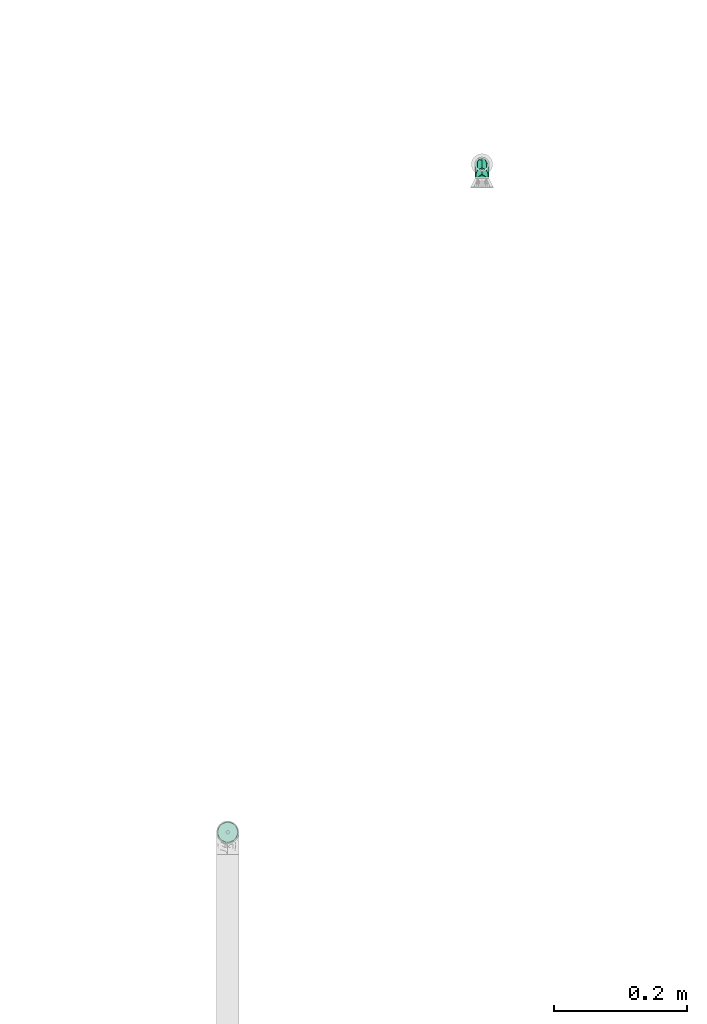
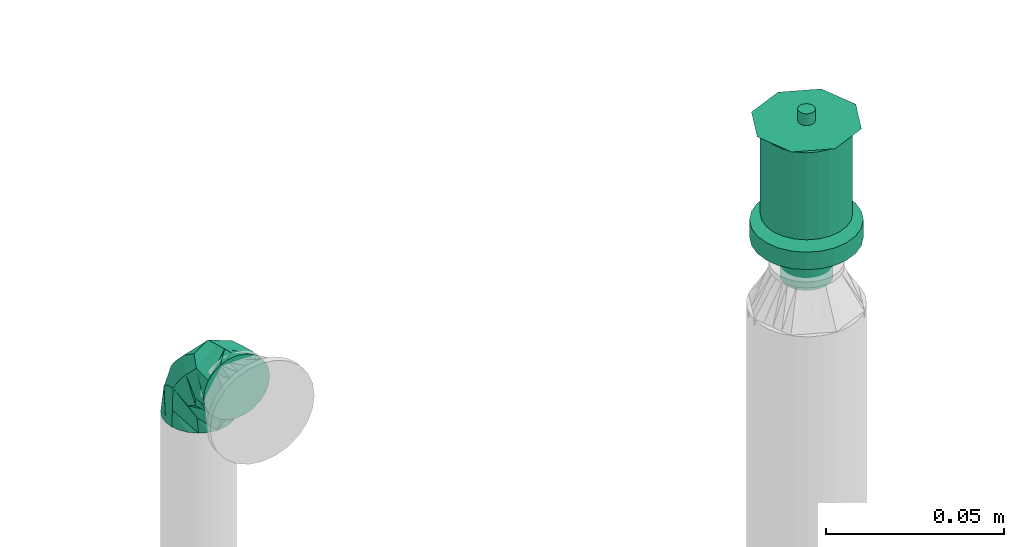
# One storey, part 48 of 94: 1 flow fitting, 1 flow terminal.
"""IFC2X3 building model written with IfcOpenShell, lengths in millimetres."""

from ifc_helpers import new_model, entity, si_unit, converted_unit, derived_unit, direction, frame, origin_with_axes, place, context, subcontext, project, spatial, open_shell, surface_model, source, transform, mapped, type_object, element, save


model = new_model("IFC2X3")

# Units and contexts
model_context = context("Model", 3, precision=0.01, world=frame((0.0, 4.29681676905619e-09, 0.0)), true_north=direction((4.01073788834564e-13, 1.0)))
plan_context = context("Plan", 3, precision=0.01, world=frame((0.0, 4.29681676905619e-09, 0.0)), true_north=direction((4.01073788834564e-13, 1.0)))
body_context = subcontext(model_context, "Body", "Model", "MODEL_VIEW")
ifc_project = project(units=[converted_unit("PLANEANGLEUNIT", "DEGREE", entity("IfcPositiveLengthMeasure", 0.0174532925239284), si_unit("PLANEANGLEUNIT", "RADIAN"), dimensions=[0, 0, 0, 0, 0, 0, 0]), si_unit("AREAUNIT", "SQUARE_METRE"), si_unit("LENGTHUNIT", "METRE", prefix="MILLI"), si_unit("MASSUNIT", "GRAM", prefix="KILO"), si_unit("POWERUNIT", "WATT"), si_unit("PRESSUREUNIT", "PASCAL", prefix="KILO"), si_unit("FORCEUNIT", "NEWTON", prefix="KILO"), si_unit("ELECTRICVOLTAGEUNIT", "VOLT"), si_unit("ELECTRICCURRENTUNIT", "AMPERE"), si_unit("THERMODYNAMICTEMPERATUREUNIT", "DEGREE_CELSIUS"), si_unit("TIMEUNIT", "SECOND"), si_unit("VOLUMEUNIT", "CUBIC_METRE"), derived_unit("LINEARVELOCITYUNIT", [(si_unit("LENGTHUNIT", "METRE"), 1), (si_unit("TIMEUNIT", "SECOND"), -1)]), derived_unit("VOLUMETRICFLOWRATEUNIT", [(si_unit("VOLUMEUNIT", "CUBIC_METRE"), 1), (si_unit("TIMEUNIT", "SECOND"), -1)]), derived_unit("THERMALTRANSMITTANCEUNIT", [(si_unit("POWERUNIT", "WATT"), 1), (si_unit("THERMODYNAMICTEMPERATUREUNIT", "KELVIN"), -1), (si_unit("AREAUNIT", "SQUARE_METRE"), -1)]), derived_unit("SOUNDPRESSUREUNIT", [(si_unit("PRESSUREUNIT", "PASCAL"), 1)])], contexts=[model_context, plan_context])

# Site, building, storey
site_placement = place(None, frame((0.0, -4.29681676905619e-09, 0.0), z_axis=(0.0, 0.0, 1.0), x_axis=(1.0, 0.0, 0.0)))
site = spatial("IfcSite", under=ifc_project, at=site_placement, CompositionType="ELEMENT")
building_placement = place(site_placement, frame((0.0, 4.29681676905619e-09, 0.0), z_axis=(0.0, 0.0, 1.0), x_axis=(1.0, 0.0, 0.0)))
building = spatial("IfcBuilding", under=site, at=building_placement, Name="mc-building", CompositionType="ELEMENT")
storey_placement = place(building_placement, frame((0.0, 0.0, 210900.0), z_axis=(0.0, 0.0, 1.0), x_axis=(1.0, 0.0, 0.0)))
storey = spatial("IfcBuildingStorey", under=building, at=storey_placement, Name="Nivå F", CompositionType="ELEMENT", Elevation=210900.0)

# Flow fitting
pipe_fitting_type = type_object("IfcPipeFittingType", Name="magi_pipe_fe_elbow_short_001", PredefinedType="BEND")
shared_shape_1 = source(origin_with_axes(), body_context, "Body", "SurfaceModel", [
    surface_model("IfcShellBasedSurfaceModel", [(-21.4, 2.76936, -10.33541), (-21.4, 0.0, -10.7), (-21.4, 7.56604, -7.56604), (-21.4, 5.35, -9.26647), (-21.4, 10.33541, -2.76936), (-21.4, 9.26647, -5.35), (-21.4, -7.56604, 7.56604), (-21.4, -5.35, -9.26647), (-21.4, -5.35, 9.26647), (-21.4, -7.56604, -7.56604), (-21.4, -9.26647, -5.35), (-21.4, -2.76936, -10.33541), (-21.4, -10.33541, -2.76936), (-21.4, -10.7, 0.0), (-21.4, 10.7, 0.0), (-21.4, 10.33541, 2.76936), (-21.4, 9.26647, 5.35), (-21.4, 7.56604, 7.56604), (-21.4, 5.35, 9.26647), (-21.4, 2.76936, 10.33541), (-21.4, -10.33541, 2.76936), (-21.4, -9.26647, 5.35), (-21.4, -2.76936, 10.33541), (-21.4, 0.0, 10.7), (-7.56604, 21.4, -7.56604), (0.0, 21.4, -10.7), (-2.76936, 21.4, -10.33541), (-5.35, 21.4, -9.26647), (-9.26647, 21.4, -5.35), (-10.33541, 21.4, -2.76936), (10.7, 21.4, 0.0), (5.35, 21.4, -9.26647), (9.26647, 21.4, -5.35), (7.56604, 21.4, -7.56604), (2.76936, 21.4, -10.33541), (10.33541, 21.4, -2.76936), (-10.33541, 21.4, 2.76936), (5.35, 21.4, 9.26647), (-7.56604, 21.4, 7.56604), (-9.26647, 21.4, 5.35), (-5.35, 21.4, 9.26647), (-2.76936, 21.4, 10.33541), (9.26647, 21.4, 5.35), (10.33541, 21.4, 2.76936), (7.56604, 21.4, 7.56604), (0.0, 21.4, 10.7), (2.76936, 21.4, 10.33541), (-10.7, 21.4, 0.0), (-17.99408, -9.78739, 0.0), (-9.96908, -7.6371, 0.0), (-9.09404, -6.9243, 4.95785), (-14.48689, -7.04149, 7.24979), (5.63065, 8.24892, 6.28438), (2.06258, 3.09852, 6.68299), (3.46206, 2.41265, 0.0), (0.98571, 10.3211, 10.08431), (-14.58817, -8.87478, 0.0), (5.00363, 14.04705, 8.8538), (-11.43216, -3.30045, 9.33143), (7.6371, 9.96908, 0.0), (8.87478, 14.58817, 0.0), (-7.84024, 13.84213, 8.94205), (-3.62699, 16.02976, 10.31804), (-15.33449, 3.33478, 10.44017), (-7.99137, -0.64527, 9.75219), (-12.26698, 17.61698, 0.0), (-13.83396, 13.83396, 0.0), (-5.22925, -4.43288, 5.66596), (6.39942, 5.35, 0.0), (-15.15468, 10.16047, 6.44408), (-10.16467, 10.01422, 9.23503), (9.78739, 17.99408, 0.0), (-7.22951, 3.98894, 10.64848), (-2.16379, -1.00373, 6.95774), (0.52471, -0.52471, 0.0), (-2.94157, 6.97816, 10.50675), (-17.61698, 12.26698, 0.0), (-2.41265, -3.46206, 0.0), (-5.35, -6.39942, 0.0), (-8.83498, -0.07405, -10.11828), (-2.16379, -1.00373, -6.95774), (-5.8406, -4.06158, -6.57779), (-7.84024, 13.84213, -8.94205), (-15.33449, 3.33478, -10.44017), (-11.43216, -3.30045, -9.33143), (-15.15468, 10.16047, -6.44408), (-7.22951, 3.98894, -10.64848), (-10.16467, 10.01422, -9.23503), (2.06258, 3.09852, -6.68299), (-2.94157, 6.97816, -10.50675), (-14.48689, -7.04149, -7.24979), (5.00363, 14.04705, -8.8538), (-3.62699, 16.02976, -10.31804), (0.98571, 10.3211, -10.08431), (5.63065, 8.24892, -6.28438), (-9.09404, -6.9243, -4.95785)], [open_shell([[[0, 1, 2]], [[3, 0, 2]], [[4, 5, 2]], [[6, 1, 7]], [[1, 8, 2]], [[9, 10, 7]], [[1, 11, 7]], [[12, 13, 10]], [[7, 10, 13]], [[13, 6, 7]], [[4, 2, 14]], [[8, 15, 2]], [[16, 15, 17]], [[8, 18, 15]], [[17, 15, 18]], [[18, 8, 19]], [[20, 21, 13]], [[13, 21, 6]], [[22, 23, 8]], [[6, 8, 1]], [[8, 23, 19]], [[15, 14, 2]], [[24, 25, 26]], [[24, 26, 27]], [[24, 28, 29]], [[24, 29, 25]], [[25, 29, 30]], [[31, 32, 33]], [[31, 34, 25]], [[32, 30, 35]], [[30, 32, 31]], [[25, 30, 31]], [[29, 36, 30]], [[30, 36, 37]], [[38, 36, 39]], [[36, 40, 37]], [[40, 36, 38]], [[41, 37, 40]], [[30, 42, 43]], [[44, 42, 30]], [[37, 45, 46]], [[30, 37, 44]], [[41, 45, 37]], [[29, 47, 36]], [[21, 20, 48]], [[49, 50, 51]], [[52, 53, 54]], [[52, 55, 53]], [[51, 6, 56]], [[6, 21, 56]], [[41, 57, 45]], [[23, 51, 58]], [[51, 22, 8]], [[57, 59, 60]], [[61, 55, 62]], [[63, 58, 64]], [[65, 66, 61]], [[51, 23, 22]], [[23, 58, 19]], [[67, 58, 50]], [[54, 68, 52]], [[63, 17, 18]], [[20, 13, 48]], [[14, 15, 69]], [[16, 17, 63]], [[62, 40, 38]], [[19, 58, 63]], [[16, 69, 15]], [[63, 18, 19]], [[59, 52, 68]], [[60, 44, 37]], [[57, 46, 45]], [[69, 70, 66]], [[52, 59, 57]], [[39, 62, 38]], [[60, 42, 44]], [[37, 57, 60]], [[37, 46, 57]], [[6, 51, 8]], [[43, 71, 30]], [[51, 56, 49]], [[70, 69, 72]], [[73, 74, 53]], [[75, 72, 73]], [[16, 63, 69]], [[47, 65, 36]], [[42, 71, 43]], [[55, 57, 62]], [[52, 57, 55]], [[41, 40, 62]], [[60, 71, 42]], [[36, 61, 39]], [[48, 56, 21]], [[61, 62, 39]], [[62, 57, 41]], [[69, 63, 72]], [[53, 75, 73]], [[69, 66, 76]], [[67, 64, 58]], [[75, 53, 55]], [[67, 77, 73]], [[55, 61, 75]], [[70, 75, 61]], [[50, 49, 78]], [[67, 50, 78]], [[51, 50, 58]], [[77, 74, 73]], [[73, 72, 64]], [[67, 78, 77]], [[73, 64, 67]], [[63, 64, 72]], [[36, 65, 61]], [[75, 70, 72]], [[14, 69, 76]], [[66, 70, 61]], [[53, 74, 54]], [[79, 80, 81]], [[65, 29, 82]], [[3, 2, 83]], [[0, 84, 1]], [[4, 14, 85]], [[10, 48, 12]], [[83, 5, 85]], [[85, 5, 4]], [[86, 85, 87]], [[83, 86, 79]], [[83, 84, 0]], [[48, 13, 12]], [[80, 77, 81]], [[88, 80, 89]], [[10, 9, 56]], [[7, 11, 90]], [[91, 31, 60]], [[9, 7, 90]], [[90, 11, 1]], [[84, 90, 1]], [[9, 90, 56]], [[28, 92, 82]], [[5, 83, 2]], [[85, 14, 76]], [[80, 88, 74]], [[82, 66, 65]], [[93, 82, 92]], [[28, 82, 29]], [[28, 24, 92]], [[24, 27, 92]], [[71, 60, 32]], [[91, 92, 26]], [[56, 48, 10]], [[35, 30, 71]], [[27, 26, 92]], [[94, 88, 93]], [[25, 91, 26]], [[31, 91, 34]], [[83, 0, 3]], [[94, 93, 91]], [[33, 60, 31]], [[89, 93, 88]], [[34, 91, 25]], [[71, 32, 35]], [[92, 91, 93]], [[59, 91, 60]], [[86, 83, 85]], [[95, 78, 49]], [[33, 32, 60]], [[66, 87, 85]], [[94, 59, 68]], [[89, 80, 86]], [[49, 56, 90]], [[94, 54, 88]], [[59, 94, 91]], [[95, 90, 84]], [[87, 89, 86]], [[82, 93, 89]], [[81, 78, 95]], [[90, 95, 49]], [[81, 95, 84]], [[79, 81, 84]], [[82, 87, 66]], [[83, 79, 84]], [[80, 79, 86]], [[77, 80, 74]], [[77, 78, 81]], [[47, 29, 65]], [[76, 66, 85]], [[89, 87, 82]], [[54, 94, 68]], [[54, 74, 88]]])]),
])
flow_fitting_placement = place(storey_placement, frame((722000.0, 442200.7, 3600.0), z_axis=(1.0, 0.0, 0.0), x_axis=(0.0, 0.0, 1.0)))
element("IfcFlowFitting", 1, at=flow_fitting_placement, inside=storey, type_object=pipe_fitting_type, Name="magi_pipe_fe_elbow_short_001", context=body_context, shape_type="MappedRepresentation", body=[
    mapped(shared_shape_1, transform((0.0, 0.0, 0.0), scale=1.0)),
])

# Flow terminal
fire_suppression_terminal_type = type_object("IfcFireSuppressionTerminalType", Name="68DGR-STD-STÅENDE", PredefinedType="NOTDEFINED")
shared_shape_2 = source(origin_with_axes(), body_context, "Body", "SurfaceModel", [
    surface_model("IfcShellBasedSurfaceModel", [(3.36465, -12.55704, 51.0), (6.5, -11.25833, 51.0), (9.19239, -9.19239, 51.0), (12.55704, -3.36465, 51.0), (-11.25833, -6.5, 51.0), (11.25833, -6.5, 51.0), (-13.0, 0.0, 51.0), (0.0, -13.0, 51.0), (-6.5, -11.25833, 51.0), (-3.36465, -12.55704, 51.0), (-9.19239, -9.19239, 51.0), (-12.55704, -3.36465, 51.0), (13.0, 0.0, 51.0), (12.55704, 3.36465, 51.0), (11.25833, 6.5, 51.0), (9.19239, 9.19239, 51.0), (6.5, 11.25833, 51.0), (3.36465, 12.55704, 51.0), (0.0, 13.0, 51.0), (-3.36465, 12.55704, 51.0), (-12.55704, 3.36465, 51.0), (-9.19239, 9.19239, 51.0), (-11.25833, 6.5, 51.0), (-6.5, 11.25833, 51.0), (0.0, 13.0, 21.14766), (3.36465, 12.55704, 21.14766), (6.5, 11.25833, 21.14766), (-3.36465, 12.55704, 21.14766), (9.19239, 9.19239, 21.14766), (11.25833, 6.5, 21.14766), (12.55704, 3.36465, 21.14766), (-12.55704, 3.36465, 21.14766), (-11.25833, -6.5, 21.14766), (-9.19239, 9.19239, 21.14766), (-6.5, 11.25833, 21.14766), (-11.25833, 6.5, 21.14766), (-13.0, 0.0, 21.14766), (12.55704, -3.36465, 21.14766), (9.19239, -9.19239, 21.14766), (11.25833, -6.5, 21.14766), (6.5, -11.25833, 21.14766), (3.36465, -12.55704, 21.14766), (-6.5, -11.25833, 21.14766), (-9.19239, -9.19239, 21.14766), (-12.55704, -3.36465, 21.14766), (0.0, -13.0, 21.14766), (-3.36465, -12.55704, 21.14766), (13.0, 0.0, 21.14766), (7.24444, -1.94114, 0.1), (1.94114, -7.24444, 0.1), (3.75, -6.49519, 0.1), (5.3033, -5.3033, 0.1), (-5.3033, -5.3033, 0.1), (6.49519, -3.75, 0.1), (5.3033, 5.3033, 0.1), (0.0, -7.5, 0.1), (-3.75, -6.49519, 0.1), (-1.94114, -7.24444, 0.1), (-7.24444, -1.94114, 0.1), (-6.49519, -3.75, 0.1), (-7.24444, 1.94114, 0.1), (7.5, 0.0, 0.1), (6.49519, 3.75, 0.1), (-6.49519, 3.75, 0.1), (1.94114, 7.24444, 0.1), (0.0, 7.5, 0.1), (3.75, 6.49519, 0.1), (-7.5, 0.0, 0.1), (-5.3033, 5.3033, 0.1), (-1.94114, 7.24444, 0.1), (-3.75, 6.49519, 0.1), (7.24444, 1.94114, 0.1), (1.94114, 7.24444, -0.1), (-6.49519, 3.75, -0.1), (0.0, 7.5, -0.1), (5.3033, 5.3033, -0.1), (3.75, 6.49519, -0.1), (6.49519, 3.75, -0.1), (7.24444, 1.94114, -0.1), (-1.94114, 7.24444, -0.1), (-5.3033, 5.3033, -0.1), (-3.75, 6.49519, -0.1), (-7.24444, 1.94114, -0.1), (-7.24444, -1.94114, -0.1), (-7.5, 0.0, -0.1), (7.5, 0.0, -0.1), (7.24444, -1.94114, -0.1), (-5.3033, -5.3033, -0.1), (1.94114, -7.24444, -0.1), (6.49519, -3.75, -0.1), (5.3033, -5.3033, -0.1), (3.75, -6.49519, -0.1), (-6.49519, -3.75, -0.1), (-3.75, -6.49519, -0.1), (0.0, -7.5, -0.1), (-1.94114, -7.24444, -0.1), (0.0, -2.5, 51.0), (-2.5, 0.0, 51.0), (0.0, 2.5, 51.0), (2.5, 0.0, 51.0), (0.0, -16.0, 53.0), (11.31371, -11.31371, 53.0), (-11.31371, -11.31371, 53.0), (-16.0, 0.0, 53.0), (16.0, 0.0, 53.0), (11.31371, 11.31371, 53.0), (0.0, 16.0, 53.0), (-11.31371, 11.31371, 53.0), (1.25, -2.16506, 57.0), (0.0, -2.5, 57.0), (0.64705, -2.41481, 57.0), (2.41481, -0.64705, 57.0), (1.76777, -1.76777, 57.0), (-2.41481, -0.64705, 57.0), (-2.5, 0.0, 57.0), (2.16506, -1.25, 57.0), (-1.25, -2.16506, 57.0), (-0.64705, -2.41481, 57.0), (-1.76777, -1.76777, 57.0), (-2.16506, -1.25, 57.0), (2.5, 0.0, 57.0), (2.41481, 0.64705, 57.0), (2.16506, 1.25, 57.0), (1.76777, 1.76777, 57.0), (0.64705, 2.41481, 57.0), (1.25, 2.16506, 57.0), (-1.76777, 1.76777, 57.0), (0.0, 2.5, 57.0), (-2.16506, 1.25, 57.0), (-2.41481, 0.64705, 57.0), (-0.64705, 2.41481, 57.0), (-1.25, 2.16506, 57.0), (1.25, 2.16506, 51.0), (1.76777, 1.76777, 51.0), (1.15, 1.99186, 51.0), (0.59528, 2.22163, 51.0), (0.64705, 2.41481, 51.0), (0.0, 2.3, 51.0), (1.62635, 1.62635, 51.0), (2.41481, 0.64705, 51.0), (2.3, 0.0, 51.0), (2.22163, 0.59528, 51.0), (2.16506, 1.25, 51.0), (1.99186, 1.15, 51.0), (-0.59528, 2.22163, 51.0), (-0.64705, 2.41481, 51.0), (-1.15, 1.99186, 51.0), (-1.76777, 1.76777, 51.0), (-1.25, 2.16506, 51.0), (-1.62635, 1.62635, 51.0), (-1.99186, 1.15, 51.0), (-2.16506, 1.25, 51.0), (-2.22163, 0.59528, 51.0), (-2.41481, 0.64705, 51.0), (-2.3, 0.0, 51.0), (2.41481, -0.64705, 51.0), (2.22163, -0.59528, 51.0), (1.99186, -1.15, 51.0), (2.16506, -1.25, 51.0), (1.62635, -1.62635, 51.0), (1.76777, -1.76777, 51.0), (1.25, -2.16506, 51.0), (1.15, -1.99186, 51.0), (0.59528, -2.22163, 51.0), (0.64705, -2.41481, 51.0), (0.0, -2.3, 51.0), (-2.16506, -1.25, 51.0), (-1.99186, -1.15, 51.0), (-1.76777, -1.76777, 51.0), (-1.62635, -1.62635, 51.0), (-2.41481, -0.64705, 51.0), (-2.22163, -0.59528, 51.0), (-0.59528, -2.22163, 51.0), (-0.64705, -2.41481, 51.0), (-1.15, -1.99186, 51.0), (-1.25, -2.16506, 51.0), (1.62635, -1.62635, 56.8), (1.15, -1.99186, 56.8), (0.59528, -2.22163, 56.8), (0.0, -2.3, 56.8), (2.22163, 0.59528, 56.8), (1.99186, -1.15, 56.8), (2.22163, -0.59528, 56.8), (-0.59528, -2.22163, 56.8), (-1.15, -1.99186, 56.8), (-1.62635, -1.62635, 56.8), (-1.99186, -1.15, 56.8), (-2.22163, -0.59528, 56.8), (-1.99186, 1.15, 56.8), (2.3, 0.0, 56.8), (1.62635, 1.62635, 56.8), (1.99186, 1.15, 56.8), (1.15, 1.99186, 56.8), (0.0, 2.3, 56.8), (0.59528, 2.22163, 56.8), (-2.22163, 0.59528, 56.8), (-2.3, 0.0, 56.8), (-1.15, 1.99186, 56.8), (-0.59528, 2.22163, 56.8), (-1.62635, 1.62635, 56.8), (4.1411, -15.45481, 19.0), (8.0, -13.85641, 19.0), (11.31371, -11.31371, 19.0), (-8.0, -13.85641, 19.0), (15.45481, -4.1411, 19.0), (16.0, 0.0, 19.0), (13.85641, -8.0, 19.0), (0.0, -16.0, 19.0), (-4.1411, -15.45481, 19.0), (-13.85641, -8.0, 19.0), (-11.31371, -11.31371, 19.0), (-15.45481, -4.1411, 19.0), (15.45481, 4.1411, 19.0), (13.85641, 8.0, 19.0), (11.31371, 11.31371, 19.0), (-4.1411, 15.45481, 19.0), (8.0, 13.85641, 19.0), (4.1411, 15.45481, 19.0), (0.0, 16.0, 19.0), (-13.85641, 8.0, 19.0), (-15.45481, 4.1411, 19.0), (-16.0, 0.0, 19.0), (-11.31371, 11.31371, 19.0), (-8.0, 13.85641, 19.0), (0.0, 16.0, 13.0), (4.1411, 15.45481, 13.0), (8.0, 13.85641, 13.0), (-4.1411, 15.45481, 13.0), (11.31371, 11.31371, 13.0), (13.85641, 8.0, 13.0), (15.45481, 4.1411, 13.0), (-15.45481, -4.1411, 13.0), (-11.31371, 11.31371, 13.0), (-8.0, 13.85641, 13.0), (-13.85641, 8.0, 13.0), (-15.45481, 4.1411, 13.0), (-16.0, 0.0, 13.0), (4.1411, -15.45481, 13.0), (16.0, 0.0, 13.0), (15.45481, -4.1411, 13.0), (13.85641, -8.0, 13.0), (11.31371, -11.31371, 13.0), (8.0, -13.85641, 13.0), (-8.0, -13.85641, 13.0), (-13.85641, -8.0, 13.0), (-11.31371, -11.31371, 13.0), (0.0, -16.0, 13.0), (-4.1411, -15.45481, 13.0), (7.24444, -1.94114, 13.0), (1.94114, -7.24444, 13.0), (3.75, -6.49519, 13.0), (5.3033, -5.3033, 13.0), (-5.3033, -5.3033, 13.0), (6.49519, -3.75, 13.0), (5.3033, 5.3033, 13.0), (0.0, -7.5, 13.0), (-3.75, -6.49519, 13.0), (-1.94114, -7.24444, 13.0), (-7.24444, -1.94114, 13.0), (-6.49519, -3.75, 13.0), (-7.24444, 1.94114, 13.0), (7.5, 0.0, 13.0), (6.49519, 3.75, 13.0), (-6.49519, 3.75, 13.0), (1.94114, 7.24444, 13.0), (0.0, 7.5, 13.0), (3.75, 6.49519, 13.0), (-7.5, 0.0, 13.0), (-5.3033, 5.3033, 13.0), (-1.94114, 7.24444, 13.0), (-3.75, 6.49519, 13.0), (7.24444, 1.94114, 13.0), (3.75, 6.49519, 0.0), (5.3033, 5.3033, 0.0), (3.65, 6.32199, 0.0), (1.88938, 7.05126, 0.0), (0.0, 7.3, 0.0), (1.94114, 7.24444, 0.0), (0.0, 7.5, 0.0), (5.16188, 5.16188, 0.0), (7.24444, 1.94114, 0.0), (7.3, 0.0, 0.0), (7.05126, 1.88938, 0.0), (7.5, 0.0, 0.0), (6.49519, 3.75, 0.0), (6.32199, 3.65, 0.0), (-1.88938, 7.05126, 0.0), (-1.94114, 7.24444, 0.0), (-3.65, 6.32199, 0.0), (-5.3033, 5.3033, 0.0), (-3.75, 6.49519, 0.0), (-5.16188, 5.16188, 0.0), (-6.32199, 3.65, 0.0), (-6.49519, 3.75, 0.0), (-7.05126, 1.88938, 0.0), (-7.24444, 1.94114, 0.0), (-7.3, 0.0, 0.0), (-7.5, 0.0, 0.0), (7.24444, -1.94114, 0.0), (7.05126, -1.88938, 0.0), (6.32199, -3.65, 0.0), (6.49519, -3.75, 0.0), (5.16188, -5.16188, 0.0), (5.3033, -5.3033, 0.0), (3.75, -6.49519, 0.0), (3.65, -6.32199, 0.0), (1.88938, -7.05126, 0.0), (1.94114, -7.24444, 0.0), (0.0, -7.3, 0.0), (0.0, -7.5, 0.0), (-6.49519, -3.75, 0.0), (-6.32199, -3.65, 0.0), (-5.3033, -5.3033, 0.0), (-5.16188, -5.16188, 0.0), (-7.24444, -1.94114, 0.0), (-7.05126, -1.88938, 0.0), (-1.88938, -7.05126, 0.0), (-1.94114, -7.24444, 0.0), (-3.65, -6.32199, 0.0), (-3.75, -6.49519, 0.0), (1.88938, -7.05126, 12.8), (0.0, -7.3, 12.8), (3.65, -6.32199, 12.8), (5.16188, -5.16188, 12.8), (6.32199, -3.65, 12.8), (7.05126, 1.88938, 12.8), (7.05126, -1.88938, 12.8), (-5.16188, -5.16188, 12.8), (-1.88938, -7.05126, 12.8), (-3.65, -6.32199, 12.8), (-6.32199, -3.65, 12.8), (-7.05126, -1.88938, 12.8), (0.0, 7.3, 12.8), (7.3, 0.0, 12.8), (6.32199, 3.65, 12.8), (5.16188, 5.16188, 12.8), (3.65, 6.32199, 12.8), (1.88938, 7.05126, 12.8), (-6.32199, 3.65, 12.8), (-7.05126, 1.88938, 12.8), (-7.3, 0.0, 12.8), (-3.65, 6.32199, 12.8), (-1.88938, 7.05126, 12.8), (-5.16188, 5.16188, 12.8)], [open_shell([[[0, 1, 2]], [[0, 2, 3]], [[0, 3, 4]], [[3, 2, 5]], [[6, 4, 3]], [[7, 8, 9]], [[7, 0, 8]], [[8, 4, 10]], [[0, 4, 8]], [[4, 6, 11]], [[6, 3, 12]], [[13, 14, 15]], [[6, 13, 15]], [[16, 17, 18]], [[15, 16, 19]], [[18, 19, 16]], [[20, 21, 22]], [[20, 6, 15]], [[21, 19, 23]], [[19, 21, 20]], [[15, 19, 20]], [[13, 6, 12]], [[24, 25, 26]], [[27, 24, 26]], [[28, 29, 30]], [[26, 28, 31]], [[28, 32, 31]], [[27, 33, 34]], [[33, 27, 31]], [[33, 31, 35]], [[27, 26, 31]], [[31, 32, 36]], [[32, 28, 30]], [[32, 30, 37]], [[38, 37, 39]], [[38, 40, 41]], [[38, 41, 37]], [[32, 37, 41]], [[32, 42, 43]], [[44, 36, 32]], [[42, 45, 46]], [[42, 32, 41]], [[45, 42, 41]], [[30, 47, 37]], [[4, 32, 43]], [[8, 42, 46]], [[43, 42, 10]], [[9, 46, 45]], [[36, 11, 6]], [[11, 36, 44]], [[11, 44, 4]], [[44, 32, 4]], [[43, 10, 4]], [[8, 10, 42]], [[46, 9, 8]], [[45, 7, 9]], [[0, 41, 40]], [[38, 1, 40]], [[5, 39, 37]], [[38, 39, 2]], [[3, 37, 47]], [[41, 0, 7]], [[40, 1, 0]], [[38, 2, 1]], [[39, 5, 2]], [[3, 5, 37]], [[47, 12, 3]], [[41, 7, 45]], [[30, 13, 47]], [[29, 14, 30]], [[25, 24, 17]], [[15, 29, 28]], [[30, 14, 13]], [[13, 12, 47]], [[16, 26, 17]], [[16, 15, 28]], [[26, 25, 17]], [[15, 14, 29]], [[28, 26, 16]], [[24, 18, 17]], [[19, 27, 34]], [[33, 23, 34]], [[22, 35, 31]], [[33, 35, 21]], [[20, 31, 36]], [[27, 19, 18]], [[34, 23, 19]], [[33, 21, 23]], [[35, 22, 21]], [[20, 22, 31]], [[36, 6, 20]], [[27, 18, 24]], [[48, 49, 50]], [[48, 50, 51]], [[49, 48, 52]], [[48, 51, 53]], [[54, 52, 48]], [[55, 56, 57]], [[56, 55, 52]], [[52, 58, 59]], [[52, 55, 49]], [[52, 60, 58]], [[54, 48, 61]], [[62, 54, 61]], [[54, 63, 52]], [[64, 65, 54]], [[64, 54, 66]], [[63, 54, 65]], [[63, 60, 52]], [[67, 58, 60]], [[68, 69, 70]], [[69, 68, 63]], [[69, 63, 65]], [[71, 62, 61]], [[72, 73, 74]], [[75, 72, 76]], [[75, 77, 78]], [[72, 75, 73]], [[78, 73, 75]], [[79, 80, 81]], [[80, 79, 73]], [[74, 73, 79]], [[78, 82, 73]], [[82, 83, 84]], [[82, 78, 85]], [[86, 87, 85]], [[88, 86, 89]], [[90, 91, 88]], [[90, 88, 89]], [[87, 86, 88]], [[83, 87, 92]], [[83, 85, 87]], [[93, 94, 95]], [[94, 93, 87]], [[88, 94, 87]], [[85, 83, 82]], [[83, 58, 84]], [[92, 59, 83]], [[56, 87, 93]], [[92, 87, 52]], [[57, 93, 95]], [[83, 59, 58]], [[58, 67, 84]], [[57, 56, 93]], [[52, 87, 56]], [[52, 59, 92]], [[55, 57, 95]], [[95, 94, 55]], [[88, 49, 94]], [[91, 50, 88]], [[53, 90, 89]], [[91, 90, 51]], [[48, 89, 86]], [[91, 51, 50]], [[50, 49, 88]], [[61, 48, 86]], [[53, 89, 48]], [[53, 51, 90]], [[85, 61, 86]], [[94, 49, 55]], [[78, 71, 85]], [[77, 62, 78]], [[66, 75, 76]], [[77, 75, 54]], [[64, 76, 72]], [[78, 62, 71]], [[71, 61, 85]], [[64, 66, 76]], [[54, 75, 66]], [[54, 62, 77]], [[65, 64, 72]], [[72, 74, 65]], [[79, 69, 74]], [[81, 70, 79]], [[63, 80, 73]], [[81, 80, 68]], [[60, 73, 82]], [[81, 68, 70]], [[70, 69, 79]], [[67, 60, 82]], [[63, 73, 60]], [[63, 68, 80]], [[84, 67, 82]], [[74, 69, 65]], [[96, 97, 98]], [[98, 99, 96]], [[100, 101, 102]], [[103, 102, 101]], [[101, 104, 103]], [[104, 105, 106]], [[107, 103, 106]], [[106, 103, 104]], [[99, 98, 105]], [[105, 104, 99]], [[98, 106, 105]], [[98, 107, 106]], [[107, 98, 97]], [[103, 107, 97]], [[97, 96, 102]], [[102, 103, 97]], [[96, 100, 102]], [[96, 101, 100]], [[101, 96, 99]], [[104, 101, 99]], [[108, 109, 110]], [[111, 108, 112]], [[113, 108, 114]], [[111, 112, 115]], [[108, 111, 114]], [[109, 116, 117]], [[116, 109, 118]], [[118, 113, 119]], [[118, 109, 108]], [[108, 113, 118]], [[111, 120, 114]], [[121, 122, 123]], [[114, 121, 123]], [[114, 123, 124]], [[124, 123, 125]], [[126, 124, 127]], [[124, 128, 129]], [[129, 114, 124]], [[126, 130, 131]], [[128, 124, 126]], [[130, 126, 127]], [[121, 114, 120]], [[132, 133, 134]], [[132, 134, 135]], [[136, 135, 137]], [[135, 136, 132]], [[136, 137, 98]], [[134, 133, 138]], [[139, 140, 141]], [[140, 139, 99]], [[139, 141, 142]], [[138, 142, 143]], [[142, 138, 133]], [[143, 142, 141]], [[98, 144, 145]], [[98, 137, 144]], [[145, 144, 146]], [[147, 148, 149]], [[146, 148, 145]], [[149, 148, 146]], [[150, 151, 147]], [[151, 150, 152]], [[150, 147, 149]], [[153, 152, 154]], [[152, 153, 151]], [[153, 154, 97]], [[99, 155, 156]], [[156, 155, 157]], [[157, 158, 159]], [[158, 157, 155]], [[159, 158, 160]], [[160, 161, 162]], [[162, 161, 163]], [[163, 164, 165]], [[164, 163, 161]], [[165, 164, 96]], [[162, 159, 160]], [[166, 167, 168]], [[168, 167, 169]], [[167, 166, 170]], [[97, 171, 170]], [[170, 171, 167]], [[97, 154, 171]], [[172, 96, 173]], [[172, 173, 174]], [[169, 175, 168]], [[175, 169, 174]], [[175, 174, 173]], [[165, 96, 172]], [[156, 140, 99]], [[170, 113, 97]], [[166, 119, 170]], [[116, 168, 175]], [[166, 168, 118]], [[117, 175, 173]], [[170, 119, 113]], [[113, 114, 97]], [[117, 116, 175]], [[118, 168, 116]], [[118, 119, 166]], [[109, 117, 173]], [[173, 96, 109]], [[164, 110, 96]], [[161, 108, 164]], [[115, 160, 158]], [[161, 160, 112]], [[111, 158, 155]], [[161, 112, 108]], [[108, 110, 164]], [[120, 111, 155]], [[115, 158, 111]], [[115, 112, 160]], [[99, 120, 155]], [[96, 110, 109]], [[139, 121, 99]], [[142, 122, 139]], [[125, 133, 132]], [[142, 133, 123]], [[124, 132, 136]], [[139, 122, 121]], [[121, 120, 99]], [[124, 125, 132]], [[123, 133, 125]], [[123, 122, 142]], [[127, 124, 136]], [[136, 98, 127]], [[145, 130, 98]], [[148, 131, 145]], [[128, 147, 151]], [[148, 147, 126]], [[129, 151, 153]], [[148, 126, 131]], [[131, 130, 145]], [[114, 129, 153]], [[128, 151, 129]], [[128, 126, 147]], [[97, 114, 153]], [[98, 130, 127]], [[176, 177, 178]], [[176, 178, 179]], [[180, 176, 179]], [[181, 176, 182]], [[180, 182, 176]], [[183, 184, 179]], [[185, 179, 184]], [[186, 187, 185]], [[185, 187, 188]], [[179, 185, 188]], [[189, 182, 180]], [[190, 191, 180]], [[192, 190, 180]], [[193, 194, 192]], [[180, 193, 192]], [[188, 193, 180]], [[195, 188, 196]], [[196, 188, 187]], [[197, 198, 199]], [[188, 199, 198]], [[188, 198, 193]], [[180, 179, 188]], [[154, 187, 171]], [[171, 186, 167]], [[174, 169, 184]], [[185, 169, 167]], [[172, 174, 183]], [[187, 186, 171]], [[154, 196, 187]], [[174, 184, 183]], [[184, 169, 185]], [[167, 186, 185]], [[172, 183, 179]], [[179, 165, 172]], [[165, 178, 163]], [[163, 177, 162]], [[157, 159, 181]], [[176, 159, 162]], [[156, 157, 182]], [[177, 176, 162]], [[163, 178, 177]], [[156, 182, 189]], [[182, 157, 181]], [[159, 176, 181]], [[156, 189, 140]], [[179, 178, 165]], [[140, 180, 141]], [[141, 191, 143]], [[134, 138, 192]], [[190, 138, 143]], [[135, 134, 194]], [[180, 191, 141]], [[140, 189, 180]], [[134, 192, 194]], [[192, 138, 190]], [[143, 191, 190]], [[135, 194, 193]], [[193, 137, 135]], [[137, 198, 144]], [[144, 197, 146]], [[150, 149, 188]], [[199, 149, 146]], [[152, 150, 195]], [[197, 199, 146]], [[144, 198, 197]], [[152, 195, 196]], [[195, 150, 188]], [[149, 199, 188]], [[152, 196, 154]], [[193, 198, 137]], [[200, 201, 202]], [[203, 200, 202]], [[204, 205, 202]], [[204, 202, 206]], [[203, 202, 205]], [[207, 203, 208]], [[207, 200, 203]], [[203, 209, 210]], [[209, 203, 211]], [[205, 211, 203]], [[205, 212, 211]], [[212, 213, 214]], [[215, 212, 214]], [[216, 217, 218]], [[214, 216, 215]], [[218, 215, 216]], [[211, 219, 220]], [[221, 211, 220]], [[222, 215, 223]], [[215, 222, 219]], [[219, 211, 215]], [[211, 212, 215]], [[224, 225, 226]], [[227, 224, 226]], [[228, 229, 230]], [[227, 226, 228]], [[227, 228, 231]], [[227, 232, 233]], [[232, 227, 234]], [[234, 231, 235]], [[231, 234, 227]], [[235, 231, 236]], [[228, 230, 231]], [[237, 238, 239]], [[237, 239, 240]], [[241, 242, 237]], [[241, 237, 240]], [[238, 237, 243]], [[244, 243, 245]], [[243, 244, 231]], [[243, 246, 247]], [[243, 231, 238]], [[237, 246, 243]], [[238, 231, 230]], [[231, 211, 236]], [[244, 209, 231]], [[203, 245, 243]], [[244, 245, 210]], [[208, 243, 247]], [[231, 209, 211]], [[211, 221, 236]], [[208, 203, 243]], [[210, 245, 203]], [[210, 209, 244]], [[207, 208, 247]], [[247, 246, 207]], [[237, 200, 246]], [[242, 201, 237]], [[206, 241, 240]], [[242, 241, 202]], [[204, 240, 239]], [[242, 202, 201]], [[201, 200, 237]], [[205, 204, 239]], [[206, 240, 204]], [[206, 202, 241]], [[238, 205, 239]], [[246, 200, 207]], [[230, 212, 238]], [[229, 213, 230]], [[216, 228, 226]], [[229, 228, 214]], [[217, 226, 225]], [[230, 213, 212]], [[212, 205, 238]], [[217, 216, 226]], [[214, 228, 216]], [[214, 213, 229]], [[218, 217, 225]], [[225, 224, 218]], [[227, 215, 224]], [[233, 223, 227]], [[219, 232, 234]], [[233, 232, 222]], [[220, 234, 235]], [[233, 222, 223]], [[223, 215, 227]], [[221, 220, 235]], [[219, 234, 220]], [[219, 222, 232]], [[236, 221, 235]], [[224, 215, 218]], [[248, 249, 250]], [[248, 250, 251]], [[249, 248, 252]], [[248, 251, 253]], [[254, 252, 248]], [[255, 256, 257]], [[256, 255, 252]], [[252, 258, 259]], [[252, 255, 249]], [[252, 260, 258]], [[254, 248, 261]], [[262, 254, 261]], [[254, 263, 252]], [[264, 265, 254]], [[264, 254, 266]], [[263, 254, 265]], [[263, 260, 252]], [[267, 258, 260]], [[268, 269, 270]], [[269, 268, 263]], [[269, 263, 265]], [[271, 262, 261]], [[272, 273, 274]], [[272, 274, 275]], [[276, 277, 275]], [[277, 276, 278]], [[275, 277, 272]], [[274, 273, 279]], [[280, 281, 282]], [[281, 280, 283]], [[280, 282, 284]], [[279, 284, 285]], [[284, 279, 273]], [[285, 284, 282]], [[278, 286, 287]], [[287, 286, 288]], [[289, 290, 291]], [[288, 290, 287]], [[288, 291, 290]], [[278, 276, 286]], [[292, 293, 289]], [[293, 292, 294]], [[292, 289, 291]], [[295, 294, 296]], [[294, 295, 293]], [[295, 296, 297]], [[283, 298, 299]], [[299, 298, 300]], [[300, 301, 302]], [[301, 300, 298]], [[302, 301, 303]], [[303, 304, 305]], [[305, 304, 306]], [[306, 307, 308]], [[307, 306, 304]], [[308, 307, 309]], [[305, 302, 303]], [[310, 311, 312]], [[312, 311, 313]], [[311, 310, 314]], [[297, 315, 314]], [[314, 315, 311]], [[297, 296, 315]], [[316, 309, 317]], [[316, 317, 318]], [[313, 319, 312]], [[313, 318, 319]], [[319, 318, 317]], [[308, 309, 316]], [[299, 281, 283]], [[314, 258, 297]], [[310, 259, 314]], [[256, 312, 319]], [[310, 312, 252]], [[257, 319, 317]], [[314, 259, 258]], [[258, 267, 297]], [[257, 256, 319]], [[252, 312, 256]], [[252, 259, 310]], [[255, 257, 317]], [[317, 309, 255]], [[307, 249, 309]], [[304, 250, 307]], [[253, 303, 301]], [[304, 303, 251]], [[248, 301, 298]], [[304, 251, 250]], [[250, 249, 307]], [[261, 248, 298]], [[253, 301, 248]], [[253, 251, 303]], [[283, 261, 298]], [[309, 249, 255]], [[280, 271, 283]], [[284, 262, 280]], [[266, 273, 272]], [[284, 273, 254]], [[264, 272, 277]], [[280, 262, 271]], [[271, 261, 283]], [[264, 266, 272]], [[254, 273, 266]], [[254, 262, 284]], [[265, 264, 277]], [[277, 278, 265]], [[287, 269, 278]], [[290, 270, 287]], [[263, 289, 293]], [[290, 289, 268]], [[260, 293, 295]], [[290, 268, 270]], [[270, 269, 287]], [[267, 260, 295]], [[263, 293, 260]], [[263, 268, 289]], [[297, 267, 295]], [[278, 269, 265]], [[320, 321, 322]], [[323, 322, 324]], [[325, 326, 322]], [[324, 322, 326]], [[322, 327, 325]], [[328, 329, 321]], [[327, 321, 329]], [[330, 331, 327]], [[322, 321, 327]], [[331, 332, 327]], [[326, 325, 333]], [[334, 325, 332]], [[335, 334, 336]], [[332, 337, 336]], [[334, 332, 336]], [[331, 338, 332]], [[339, 338, 340]], [[340, 338, 331]], [[341, 342, 343]], [[332, 338, 343]], [[332, 343, 342]], [[332, 325, 327]], [[296, 331, 315]], [[315, 330, 311]], [[318, 313, 329]], [[327, 313, 311]], [[316, 318, 328]], [[331, 330, 315]], [[296, 340, 331]], [[318, 329, 328]], [[329, 313, 327]], [[311, 330, 327]], [[316, 328, 321]], [[321, 308, 316]], [[308, 320, 306]], [[306, 322, 305]], [[300, 302, 324]], [[323, 302, 305]], [[299, 300, 326]], [[322, 323, 305]], [[306, 320, 322]], [[299, 326, 333]], [[326, 300, 324]], [[302, 323, 324]], [[299, 333, 281]], [[321, 320, 308]], [[281, 325, 282]], [[282, 334, 285]], [[274, 279, 336]], [[335, 279, 285]], [[275, 274, 337]], [[325, 334, 282]], [[281, 333, 325]], [[274, 336, 337]], [[336, 279, 335]], [[285, 334, 335]], [[275, 337, 332]], [[332, 276, 275]], [[276, 342, 286]], [[286, 341, 288]], [[292, 291, 338]], [[343, 291, 288]], [[294, 292, 339]], [[341, 343, 288]], [[286, 342, 341]], [[294, 339, 340]], [[339, 292, 338]], [[291, 343, 338]], [[294, 340, 296]], [[332, 342, 276]]])]),
])
flow_terminal_placement = place(storey_placement, frame((721618.28055, 441198.08755, 4367.0), z_axis=(0.0, 0.0, 1.0), x_axis=(1.0, 0.0, 0.0)))
element("IfcFlowTerminal", 2, at=flow_terminal_placement, inside=storey, type_object=fire_suppression_terminal_type, Name="68DGR-STD-STÅENDE", context=body_context, shape_type="MappedRepresentation", body=[
    mapped(shared_shape_2, transform((0.0, 0.0, 0.0), scale=1.0)),
])

save(model, "model.ifc")
